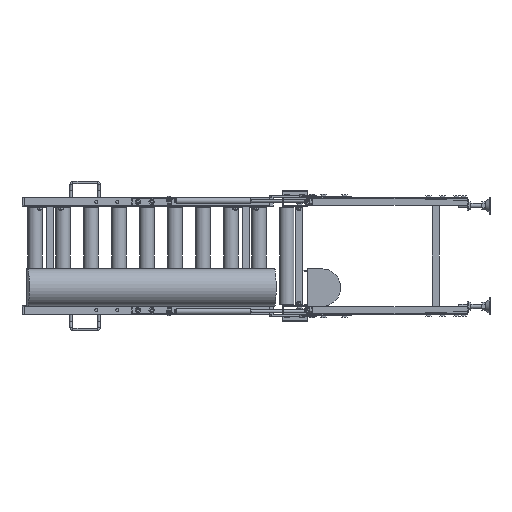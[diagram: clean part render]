
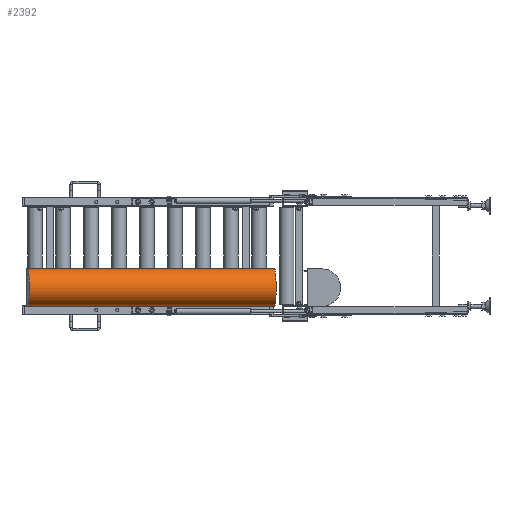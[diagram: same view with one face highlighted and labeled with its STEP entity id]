
A CAD part, left-side view. The second image highlights one B-rep face of the part: STEP entity #2392.
In plain terms, the highlighted cylindrical face has radius 66.89 mm (diameter 133.78 mm), a partial arc.
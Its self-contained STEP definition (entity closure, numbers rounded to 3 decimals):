
#2392=ADVANCED_FACE('',(#19386),#19385,.T.);
#19385=CYLINDRICAL_SURFACE('',#37673,66.89);
#19386=FACE_OUTER_BOUND('',#37674,.T.);
#37670=CARTESIAN_POINT('',(-63.444,-158.438,-112.61));
#37671=DIRECTION('',(0.087,-0.996,0.));
#37672=DIRECTION('',(0.,0.,-1.));
#37673=AXIS2_PLACEMENT_3D('',#37670,#37671,#37672);
#37674=EDGE_LOOP('',(#51221,#51222,#51223,#51224));
#51221=ORIENTED_EDGE('',*,*,#60184,.F.);
#51222=ORIENTED_EDGE('',*,*,#60206,.T.);
#51223=ORIENTED_EDGE('',*,*,#60204,.T.);
#51224=ORIENTED_EDGE('',*,*,#60180,.F.);
#60180=EDGE_CURVE('',#89575,#89582,#89583,.T.);
#60184=EDGE_CURVE('',#89602,#89575,#89609,.T.);
#60204=EDGE_CURVE('',#89747,#89582,#89748,.T.);
#60206=EDGE_CURVE('',#89602,#89747,#89760,.T.);
#89575=VERTEX_POINT('',#121906);
#89582=VERTEX_POINT('',#121910);
#89583=CIRCLE('',#121914,66.89);
#89602=VERTEX_POINT('',#121922);
#89609=LINE('',#121926,#121927);
#89747=VERTEX_POINT('',#122004);
#89748=LINE('',#122005,#122006);
#89760=CIRCLE('',#122014,66.89);
#121906=CARTESIAN_POINT('',(-155.735,897.187,-179.5));
#121910=CARTESIAN_POINT('',(-155.735,897.187,-45.72));
#121911=CARTESIAN_POINT('',(-155.735,897.187,-112.61));
#121912=DIRECTION('',(-0.087,0.996,0.));
#121913=DIRECTION('',(0.,0.,1.));
#121914=AXIS2_PLACEMENT_3D('',#121911,#121912,#121913);
#121922=CARTESIAN_POINT('',(-78.917,18.539,-179.5));
#121926=CARTESIAN_POINT('',(-78.917,18.539,-179.5));
#121927=VECTOR('',#121928,882.);
#121928=DIRECTION('',(-0.087,0.996,0.));
#122004=CARTESIAN_POINT('',(-78.917,18.539,-45.72));
#122005=CARTESIAN_POINT('',(-78.917,18.539,-45.72));
#122006=VECTOR('',#122007,882.);
#122007=DIRECTION('',(-0.087,0.996,0.));
#122011=CARTESIAN_POINT('',(-78.917,18.539,-112.61));
#122012=DIRECTION('',(-0.087,0.996,0.));
#122013=DIRECTION('',(0.,0.,1.));
#122014=AXIS2_PLACEMENT_3D('',#122011,#122012,#122013);
